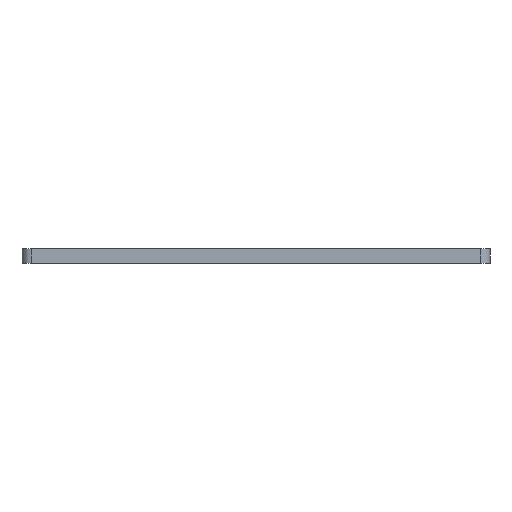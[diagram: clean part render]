
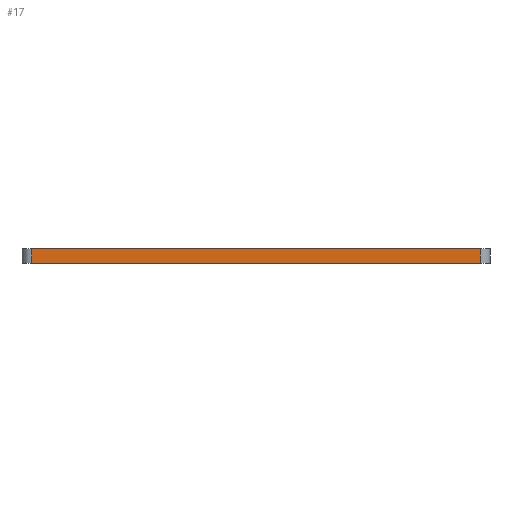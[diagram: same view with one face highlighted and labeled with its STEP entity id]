
A CAD part, left-side view. The second image highlights one B-rep face of the part: STEP entity #17.
In plain terms, the highlighted planar face has unit normal (-1, 0, 0).
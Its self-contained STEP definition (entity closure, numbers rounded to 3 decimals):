
#17 = ADVANCED_FACE('',(#18),#32,.F.);
#18 = FACE_BOUND('',#19,.F.);
#19 = EDGE_LOOP('',(#20,#55,#83,#111));
#20 = ORIENTED_EDGE('',*,*,#21,.F.);
#21 = EDGE_CURVE('',#22,#24,#26,.T.);
#22 = VERTEX_POINT('',#23);
#23 = CARTESIAN_POINT('',(-120.,-91.,100.));
#24 = VERTEX_POINT('',#25);
#25 = CARTESIAN_POINT('',(-120.,91.,100.));
#26 = SURFACE_CURVE('',#27,(#31,#43),.PCURVE_S1.);
#27 = LINE('',#28,#29);
#28 = CARTESIAN_POINT('',(-120.,-95.,100.));
#29 = VECTOR('',#30,1.);
#30 = DIRECTION('',(0.,1.,0.));
#31 = PCURVE('',#32,#37);
#32 = PLANE('',#33);
#33 = AXIS2_PLACEMENT_3D('',#34,#35,#36);
#34 = CARTESIAN_POINT('',(-120.,-95.,94.));
#35 = DIRECTION('',(1.,0.,0.));
#36 = DIRECTION('',(0.,0.,1.));
#37 = DEFINITIONAL_REPRESENTATION('',(#38),#42);
#38 = LINE('',#39,#40);
#39 = CARTESIAN_POINT('',(6.,0.));
#40 = VECTOR('',#41,1.);
#41 = DIRECTION('',(0.,-1.));
#42 = ( GEOMETRIC_REPRESENTATION_CONTEXT(2) 
PARAMETRIC_REPRESENTATION_CONTEXT() REPRESENTATION_CONTEXT('2D SPACE',''
  ) );
#43 = PCURVE('',#44,#49);
#44 = PLANE('',#45);
#45 = AXIS2_PLACEMENT_3D('',#46,#47,#48);
#46 = CARTESIAN_POINT('',(-120.,-95.,100.));
#47 = DIRECTION('',(0.,0.,1.));
#48 = DIRECTION('',(1.,0.,0.));
#49 = DEFINITIONAL_REPRESENTATION('',(#50),#54);
#50 = LINE('',#51,#52);
#51 = CARTESIAN_POINT('',(0.,0.));
#52 = VECTOR('',#53,1.);
#53 = DIRECTION('',(0.,1.));
#54 = ( GEOMETRIC_REPRESENTATION_CONTEXT(2) 
PARAMETRIC_REPRESENTATION_CONTEXT() REPRESENTATION_CONTEXT('2D SPACE',''
  ) );
#55 = ORIENTED_EDGE('',*,*,#56,.F.);
#56 = EDGE_CURVE('',#57,#22,#59,.T.);
#57 = VERTEX_POINT('',#58);
#58 = CARTESIAN_POINT('',(-120.,-91.,94.));
#59 = SURFACE_CURVE('',#60,(#64,#71),.PCURVE_S1.);
#60 = LINE('',#61,#62);
#61 = CARTESIAN_POINT('',(-120.,-91.,94.));
#62 = VECTOR('',#63,1.);
#63 = DIRECTION('',(0.,0.,1.));
#64 = PCURVE('',#32,#65);
#65 = DEFINITIONAL_REPRESENTATION('',(#66),#70);
#66 = LINE('',#67,#68);
#67 = CARTESIAN_POINT('',(0.,-4.));
#68 = VECTOR('',#69,1.);
#69 = DIRECTION('',(1.,0.));
#70 = ( GEOMETRIC_REPRESENTATION_CONTEXT(2) 
PARAMETRIC_REPRESENTATION_CONTEXT() REPRESENTATION_CONTEXT('2D SPACE',''
  ) );
#71 = PCURVE('',#72,#77);
#72 = CYLINDRICAL_SURFACE('',#73,4.);
#73 = AXIS2_PLACEMENT_3D('',#74,#75,#76);
#74 = CARTESIAN_POINT('',(-116.,-91.,94.));
#75 = DIRECTION('',(0.,0.,1.));
#76 = DIRECTION('',(-1.,-0.,0.));
#77 = DEFINITIONAL_REPRESENTATION('',(#78),#82);
#78 = LINE('',#79,#80);
#79 = CARTESIAN_POINT('',(0.,0.));
#80 = VECTOR('',#81,1.);
#81 = DIRECTION('',(0.,1.));
#82 = ( GEOMETRIC_REPRESENTATION_CONTEXT(2) 
PARAMETRIC_REPRESENTATION_CONTEXT() REPRESENTATION_CONTEXT('2D SPACE',''
  ) );
#83 = ORIENTED_EDGE('',*,*,#84,.T.);
#84 = EDGE_CURVE('',#57,#85,#87,.T.);
#85 = VERTEX_POINT('',#86);
#86 = CARTESIAN_POINT('',(-120.,91.,94.));
#87 = SURFACE_CURVE('',#88,(#92,#99),.PCURVE_S1.);
#88 = LINE('',#89,#90);
#89 = CARTESIAN_POINT('',(-120.,-95.,94.));
#90 = VECTOR('',#91,1.);
#91 = DIRECTION('',(0.,1.,0.));
#92 = PCURVE('',#32,#93);
#93 = DEFINITIONAL_REPRESENTATION('',(#94),#98);
#94 = LINE('',#95,#96);
#95 = CARTESIAN_POINT('',(0.,0.));
#96 = VECTOR('',#97,1.);
#97 = DIRECTION('',(0.,-1.));
#98 = ( GEOMETRIC_REPRESENTATION_CONTEXT(2) 
PARAMETRIC_REPRESENTATION_CONTEXT() REPRESENTATION_CONTEXT('2D SPACE',''
  ) );
#99 = PCURVE('',#100,#105);
#100 = PLANE('',#101);
#101 = AXIS2_PLACEMENT_3D('',#102,#103,#104);
#102 = CARTESIAN_POINT('',(-120.,-95.,94.));
#103 = DIRECTION('',(0.,0.,1.));
#104 = DIRECTION('',(1.,0.,0.));
#105 = DEFINITIONAL_REPRESENTATION('',(#106),#110);
#106 = LINE('',#107,#108);
#107 = CARTESIAN_POINT('',(0.,0.));
#108 = VECTOR('',#109,1.);
#109 = DIRECTION('',(0.,1.));
#110 = ( GEOMETRIC_REPRESENTATION_CONTEXT(2) 
PARAMETRIC_REPRESENTATION_CONTEXT() REPRESENTATION_CONTEXT('2D SPACE',''
  ) );
#111 = ORIENTED_EDGE('',*,*,#112,.T.);
#112 = EDGE_CURVE('',#85,#24,#113,.T.);
#113 = SURFACE_CURVE('',#114,(#118,#125),.PCURVE_S1.);
#114 = LINE('',#115,#116);
#115 = CARTESIAN_POINT('',(-120.,91.,94.));
#116 = VECTOR('',#117,1.);
#117 = DIRECTION('',(0.,0.,1.));
#118 = PCURVE('',#32,#119);
#119 = DEFINITIONAL_REPRESENTATION('',(#120),#124);
#120 = LINE('',#121,#122);
#121 = CARTESIAN_POINT('',(0.,-186.));
#122 = VECTOR('',#123,1.);
#123 = DIRECTION('',(1.,0.));
#124 = ( GEOMETRIC_REPRESENTATION_CONTEXT(2) 
PARAMETRIC_REPRESENTATION_CONTEXT() REPRESENTATION_CONTEXT('2D SPACE',''
  ) );
#125 = PCURVE('',#126,#131);
#126 = CYLINDRICAL_SURFACE('',#127,4.);
#127 = AXIS2_PLACEMENT_3D('',#128,#129,#130);
#128 = CARTESIAN_POINT('',(-116.,91.,94.));
#129 = DIRECTION('',(0.,0.,1.));
#130 = DIRECTION('',(-1.,-0.,0.));
#131 = DEFINITIONAL_REPRESENTATION('',(#132),#136);
#132 = LINE('',#133,#134);
#133 = CARTESIAN_POINT('',(-0.,0.));
#134 = VECTOR('',#135,1.);
#135 = DIRECTION('',(-0.,1.));
#136 = ( GEOMETRIC_REPRESENTATION_CONTEXT(2) 
PARAMETRIC_REPRESENTATION_CONTEXT() REPRESENTATION_CONTEXT('2D SPACE',''
  ) );
